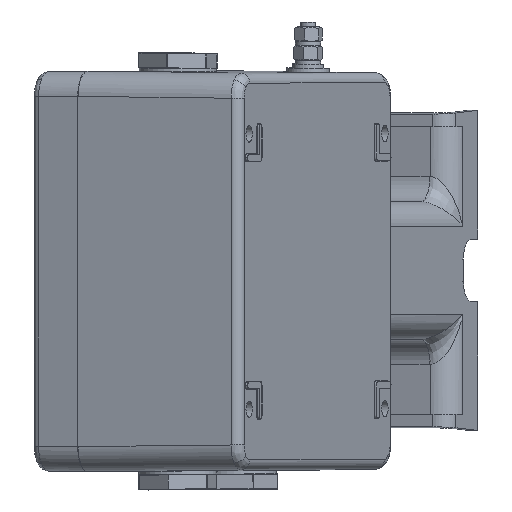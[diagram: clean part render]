
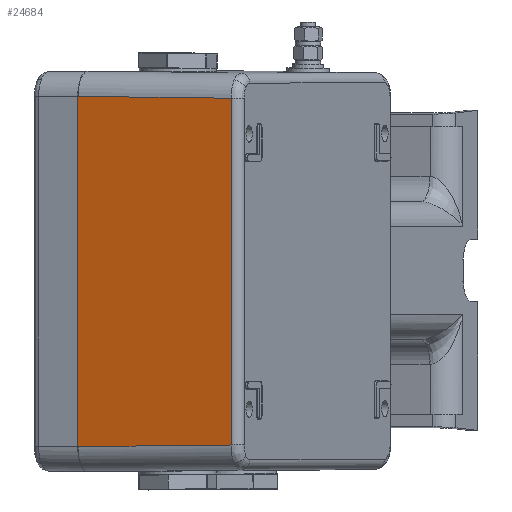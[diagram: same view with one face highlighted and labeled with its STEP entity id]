
A CAD part, left-side view. The second image highlights one B-rep face of the part: STEP entity #24684.
In plain terms, the highlighted planar face has unit normal (-0.926, 0.378, -0.002) as drawn and (-1, -0.01, 0) by its records, which use the part's own axes.
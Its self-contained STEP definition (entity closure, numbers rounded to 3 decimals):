
#1207=LINE('',#39178,#3245);
#1256=LINE('',#39861,#3294);
#1257=LINE('',#39862,#3295);
#1258=LINE('',#39863,#3296);
#3245=VECTOR('',#29882,139.949);
#3294=VECTOR('',#29995,66.049);
#3295=VECTOR('',#29996,138.566);
#3296=VECTOR('',#29997,66.049);
#5217=PLANE('',#26525);
#6999=FACE_OUTER_BOUND('',#8612,.T.);
#8612=EDGE_LOOP('',(#18050,#18051,#18052,#18053));
#11618=VERTEX_POINT('',#37971);
#11775=VERTEX_POINT('',#39176);
#11776=VERTEX_POINT('',#39177);
#11822=VERTEX_POINT('',#39860);
#14182=EDGE_CURVE('',#11775,#11776,#1207,.T.);
#14259=EDGE_CURVE('',#11776,#11822,#1256,.T.);
#14260=EDGE_CURVE('',#11822,#11618,#1257,.T.);
#14261=EDGE_CURVE('',#11618,#11775,#1258,.T.);
#18050=ORIENTED_EDGE('',*,*,#14259,.T.);
#18051=ORIENTED_EDGE('',*,*,#14260,.T.);
#18052=ORIENTED_EDGE('',*,*,#14261,.T.);
#18053=ORIENTED_EDGE('',*,*,#14182,.T.);
#24684=ADVANCED_FACE('',(#6999),#5217,.T.);
#26525=AXIS2_PLACEMENT_3D('',#39859,#29993,#29994);
#29882=DIRECTION('',(0.,0.,-1.));
#29993=DIRECTION('center_axis',(-1.,-0.01,
0.));
#29994=DIRECTION('ref_axis',(0.01,-1.,0.));
#29995=DIRECTION('',(0.01,-1.,0.01));
#29996=DIRECTION('',(0.,0.,1.));
#29997=DIRECTION('',(-0.01,1.,0.01));
#37971=CARTESIAN_POINT('',(-79.282,-66.542,69.283));
#39176=CARTESIAN_POINT('',(-79.974,-0.5,69.974));
#39177=CARTESIAN_POINT('',(-79.974,-0.5,-69.974));
#39178=CARTESIAN_POINT('',(-79.974,-0.5,-80.));
#39859=CARTESIAN_POINT('Origin',(-80.,2.,-80.));
#39860=CARTESIAN_POINT('',(-79.282,-66.542,-69.283));
#39861=CARTESIAN_POINT('',(-80.001,2.105,-70.002));
#39862=CARTESIAN_POINT('',(-79.282,-66.542,69.241));
#39863=CARTESIAN_POINT('',(-79.984,0.429,69.984));
